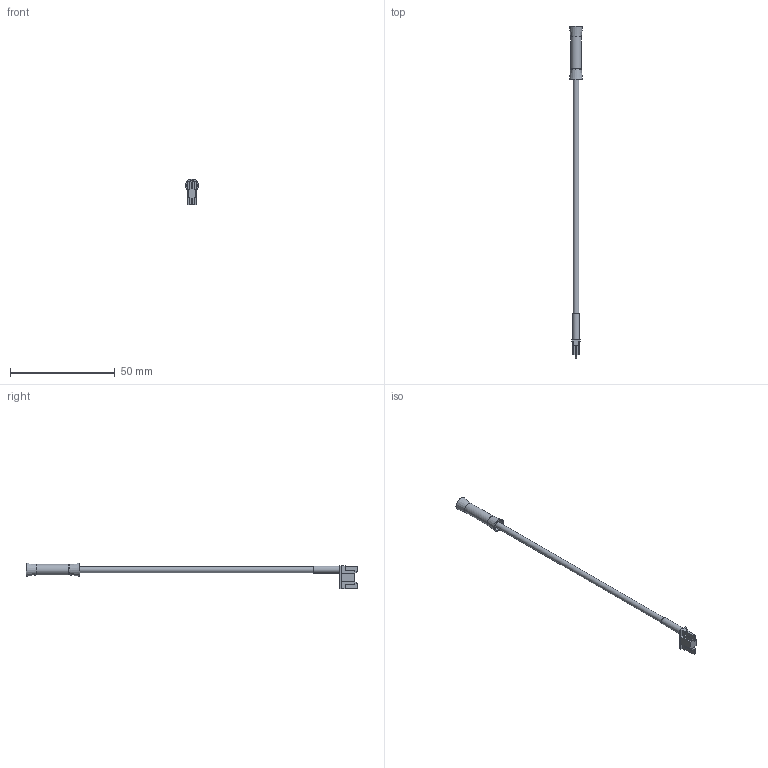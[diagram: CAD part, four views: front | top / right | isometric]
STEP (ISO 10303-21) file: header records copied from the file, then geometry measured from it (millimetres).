
FILE_DESCRIPTION(/* description */ (''),/* implementation_level */ '2;1');
FILE_NAME(/* name */ 'C:\Users\Hani\Desktop\work\ANS-W\ANS-W.stp',/* time_stamp */ '2021-10-15T15:36:25-07:00',/* author */ ('Hani'),/* organization */ (''),/* preprocessor_version */ 'ST-DEVELOPER v17',/* originating_system */ 'Autodesk Inventor 2019',/* authorisation */ '');
FILE_SCHEMA (('AUTOMOTIVE_DESIGN { 1 0 10303 214 3 1 1 }'));
Length unit declared in the file: inch
Products named in the file (3): ANS-W; ANS-W_1; -W
Assembly tree (2 placements, depth 2):
  ANS-W
    ANS-W_1
    -W
Bounding box: 6.35 x 158.74 x 12.4 mm (x, y, z)
Volume: 1399.7 mm3; surface area: 2142.4 mm2
Topology: 3 solids, 3 shells, 201 faces, 536 edges, 355 vertices
Faces by surface type: plane 115, bspline 67, cylinder 17, cone 2
Full cylindrical faces by diameter (mm): 2.794 x1, 3.302 x1, 5.08 x3
Entity records: 6941 total; most frequent: CARTESIAN_POINT 2168, ORIENTED_EDGE 1072, DIRECTION 711, EDGE_CURVE 536, LINE 371, VECTOR 371, VERTEX_POINT 355, EDGE_LOOP 217
